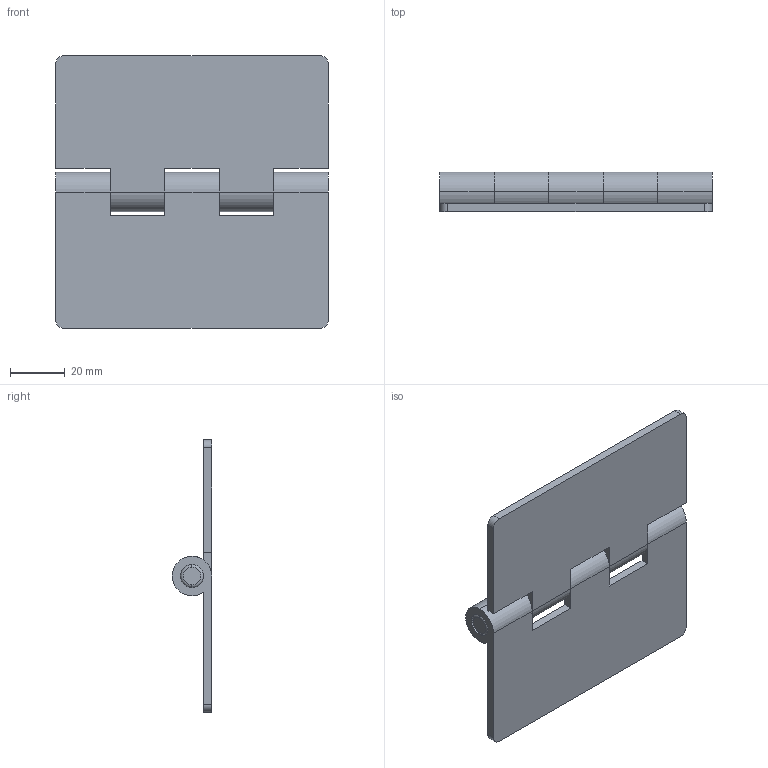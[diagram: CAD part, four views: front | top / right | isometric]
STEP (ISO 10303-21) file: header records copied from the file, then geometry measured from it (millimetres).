
FILE_DESCRIPTION (( 'STEP AP203' ), '1' );
FILE_NAME ('B17-17786.STEP', '2024-10-24T09:39:03', ( '' ), ( '' ), 'SwSTEP 2.0', 'SolidWorks 2021', '' );
FILE_SCHEMA (( 'CONFIG_CONTROL_DESIGN' ));
Length unit declared in the file: millimetre
Products named in the file (4): B17-17786-1; B17-17786-2; B17-17786-軸; B17-17786
Assembly tree (3 placements, depth 2):
  B17-17786
    B17-17786-軸
    B17-17786-1
    B17-17786-2
Bounding box: 100 x 14.5 x 100 mm (x, y, z)
Volume: 42620 mm3; surface area: 29550.7 mm2
Topology: 3 solids, 3 shells, 60 faces, 158 edges, 104 vertices
Faces by surface type: cylinder 31, plane 25, torus 4
Entity records: 2314 total; most frequent: DIRECTION 360, CARTESIAN_POINT 328, ORIENTED_EDGE 316, EDGE_CURVE 158, AXIS2_PLACEMENT_3D 136, VERTEX_POINT 104, VECTOR 88, LINE 88
